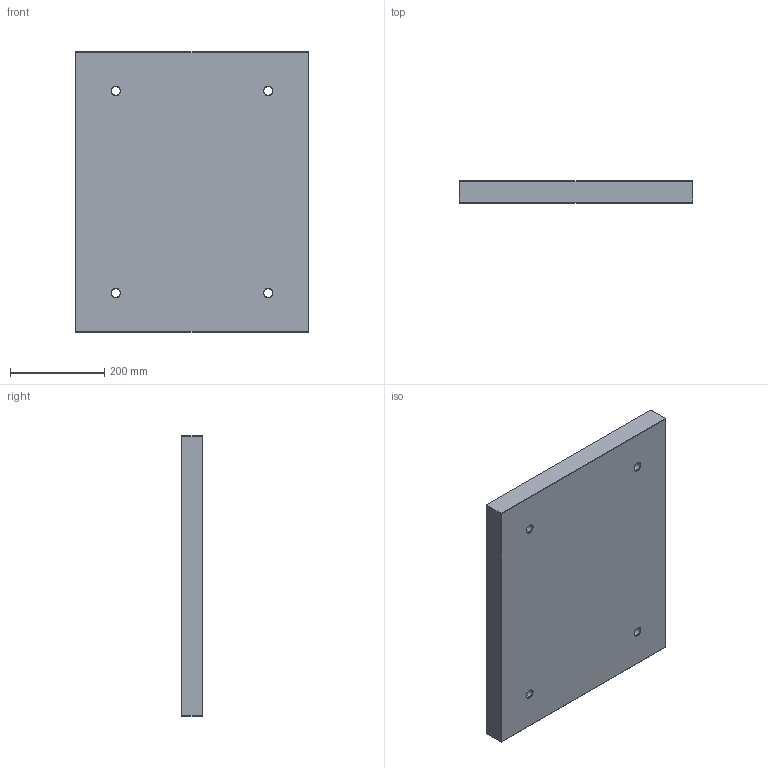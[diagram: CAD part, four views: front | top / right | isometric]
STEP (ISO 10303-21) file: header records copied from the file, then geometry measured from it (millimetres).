
FILE_DESCRIPTION (( 'STEP AP214' ), '1' );
FILE_NAME ('396x596x46.STEP', '2020-03-09T17:59:14', ( 'August' ), ( '' ), 'SwSTEP 2.0', 'SolidWorks 2018', '' );
FILE_SCHEMA (( 'AUTOMOTIVE_DESIGN' ));
Length unit declared in the file: millimetre
Products named in the file (1): 396x596x46
Bounding box: 496 x 46 x 596 mm (x, y, z)
Volume: 13529053.1 mm3; surface area: 698891.8 mm2
Topology: 1 solids, 1 shells, 62 faces, 128 edges, 72 vertices
Faces by surface type: plane 30, cone 16, cylinder 16
Entity records: 1650 total; most frequent: DIRECTION 302, CARTESIAN_POINT 263, ORIENTED_EDGE 256, EDGE_CURVE 128, AXIS2_PLACEMENT_3D 111, VECTOR 80, LINE 80, EDGE_LOOP 74
